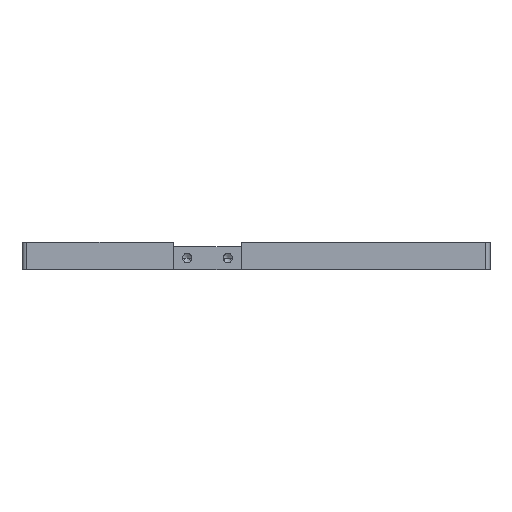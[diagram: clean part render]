
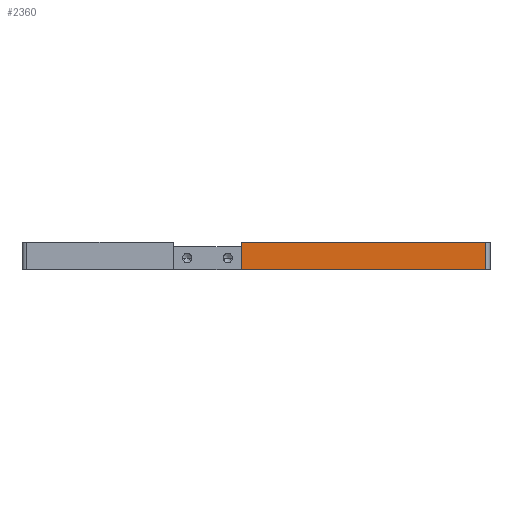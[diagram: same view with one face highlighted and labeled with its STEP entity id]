
A CAD part, top view. The second image highlights one B-rep face of the part: STEP entity #2360.
In plain terms, the highlighted planar face has unit normal (0, 0, 1).
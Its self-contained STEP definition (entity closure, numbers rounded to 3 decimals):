
#2342=AXIS2_PLACEMENT_3D('Plane Axis2P3D',#2339,#2340,#2341) ;
#485=CARTESIAN_POINT('Vertex',(101.5,7.,66.)) ;
#490=CARTESIAN_POINT('Line Origine',(101.5,5.,66.)) ;
#494=CARTESIAN_POINT('Vertex',(101.5,-5.,66.)) ;
#619=CARTESIAN_POINT('Line Origine',(-6.5,1.,66.)) ;
#623=CARTESIAN_POINT('Vertex',(-6.5,-5.,66.)) ;
#625=CARTESIAN_POINT('Vertex',(-6.5,7.,66.)) ;
#2339=CARTESIAN_POINT('Axis2P3D Location',(-103.5,5.,66.)) ;
#2344=CARTESIAN_POINT('Line Origine',(47.5,7.,66.)) ;
#2349=CARTESIAN_POINT('Line Origine',(47.5,-5.,66.)) ;
#491=DIRECTION('Vector Direction',(0.,-1.,0.)) ;
#620=DIRECTION('Vector Direction',(0.,1.,0.)) ;
#2340=DIRECTION('Axis2P3D Direction',(0.,0.,-1.)) ;
#2341=DIRECTION('Axis2P3D XDirection',(-1.,0.,-0.)) ;
#2345=DIRECTION('Vector Direction',(-1.,0.,0.)) ;
#2350=DIRECTION('Vector Direction',(1.,0.,0.)) ;
#492=VECTOR('Line Direction',#491,1.) ;
#621=VECTOR('Line Direction',#620,1.) ;
#2346=VECTOR('Line Direction',#2345,1.) ;
#2351=VECTOR('Line Direction',#2350,1.) ;
#2355=ORIENTED_EDGE('',*,*,#2348,.T.) ;
#2356=ORIENTED_EDGE('',*,*,#627,.F.) ;
#2357=ORIENTED_EDGE('',*,*,#2353,.T.) ;
#2358=ORIENTED_EDGE('',*,*,#496,.T.) ;
#2360=ADVANCED_FACE('M5 \X2\87BA7EB95B54\X0\1',(#2359),#2343,.F.) ;
#496=EDGE_CURVE('',#495,#486,#493,.F.) ;
#627=EDGE_CURVE('',#624,#626,#622,.T.) ;
#2348=EDGE_CURVE('',#486,#626,#2347,.T.) ;
#2353=EDGE_CURVE('',#624,#495,#2352,.T.) ;
#2354=EDGE_LOOP('',(#2355,#2356,#2357,#2358)) ;
#2359=FACE_OUTER_BOUND('',#2354,.T.) ;
#493=LINE('Line',#490,#492) ;
#622=LINE('Line',#619,#621) ;
#2347=LINE('Line',#2344,#2346) ;
#2352=LINE('Line',#2349,#2351) ;
#2343=PLANE('',#2342) ;
#486=VERTEX_POINT('',#485) ;
#495=VERTEX_POINT('',#494) ;
#624=VERTEX_POINT('',#623) ;
#626=VERTEX_POINT('',#625) ;
